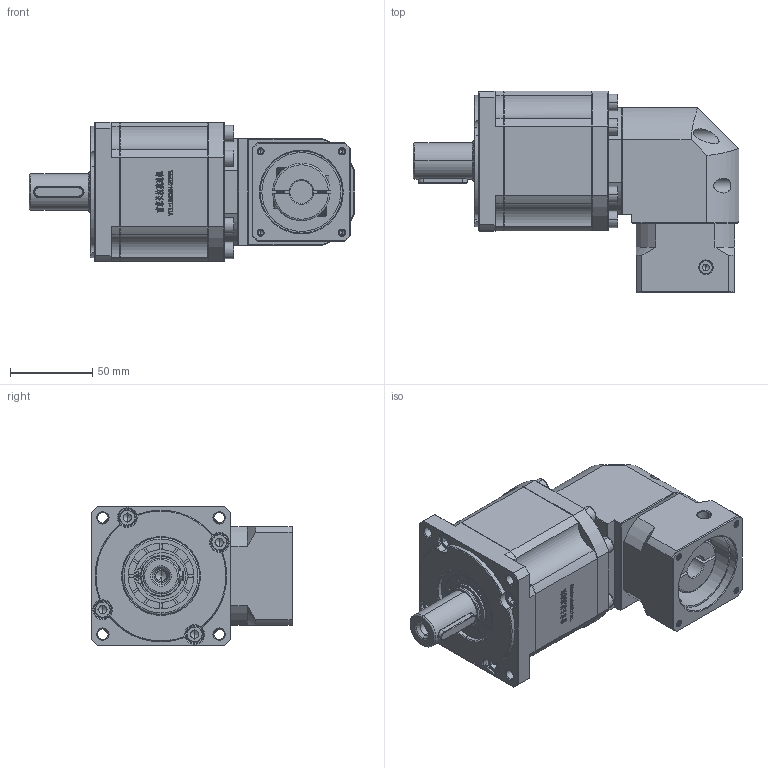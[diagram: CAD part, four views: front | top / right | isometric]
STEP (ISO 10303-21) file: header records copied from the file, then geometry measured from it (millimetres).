
FILE_DESCRIPTION (( 'STEP AP214' ), '1' );
FILE_NAME ('ZBR90-D22-L3-14-50-70-M4.step', '2022-05-07T15:21:55', ( '' ), ( 'Microsoft' ), 'SwSTEP 2.0', 'SolidWorks 2016', '' );
FILE_SCHEMA (( 'AUTOMOTIVE_DESIGN' ));
Length unit declared in the file: millimetre
Products named in the file (1): ZBR90-D22-L3-14-50-70-M4
Bounding box: 198 x 122.7 x 85 mm (x, y, z)
Volume: 923316.2 mm3; surface area: 105242.6 mm2
Topology: 5 solids, 5 shells, 3031 faces, 8110 edges, 5223 vertices
Faces by surface type: plane 1598, bspline 620, cylinder 437, cone 368, torus 8
Entity records: 161261 total; most frequent: CARTESIAN_POINT 56916, ORIENTED_EDGE 16128, DIRECTION 12387, EDGE_CURVE 8064, VECTOR 5329, LINE 5329, VERTEX_POINT 5223, AXIS2_PLACEMENT_3D 3529
